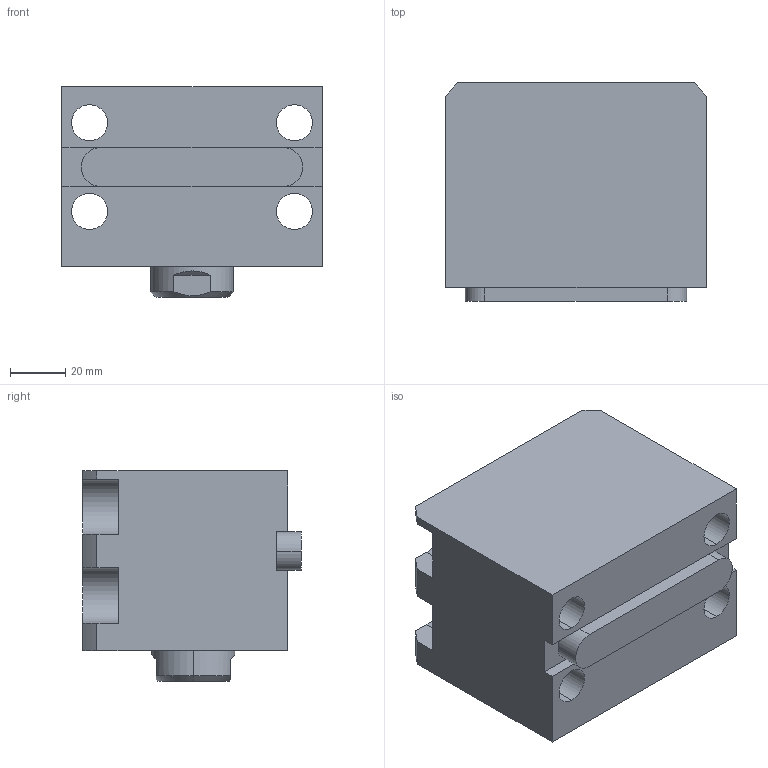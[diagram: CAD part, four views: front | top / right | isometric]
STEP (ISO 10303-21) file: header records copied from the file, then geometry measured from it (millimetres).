
FILE_DESCRIPTION (( 'STEP AP203' ), '1' );
FILE_NAME ('CHTB-LA50-5N.STEP', '2018-05-18T00:12:58', ( '' ), ( '' ), 'SwSTEP 2.0', 'SolidWorks 2015', '' );
FILE_SCHEMA (( 'CONFIG_CONTROL_DESIGN' ));
Length unit declared in the file: millimetre
Products named in the file (4): 掛极LA50-5N; 活塞杆LA50-5N; CHTB-LA50-5N; CHTM-SDMA50QG
Assembly tree (3 placements, depth 2):
  CHTB-LA50-5N
    掛极LA50-5N
    CHTM-SDMA50QG
    活塞杆LA50-5N
Bounding box: 94 x 79 x 76 mm (x, y, z)
Volume: 390839 mm3; surface area: 86516 mm2
Topology: 3 solids, 3 shells, 202 faces, 542 edges, 358 vertices
Faces by surface type: cylinder 96, plane 53, cone 23, torus 16, bspline 14
Entity records: 11255 total; most frequent: CARTESIAN_POINT 5992, ORIENTED_EDGE 1072, DIRECTION 958, EDGE_CURVE 536, AXIS2_PLACEMENT_3D 377, VERTEX_POINT 358, EDGE_LOOP 234, LINE 204
